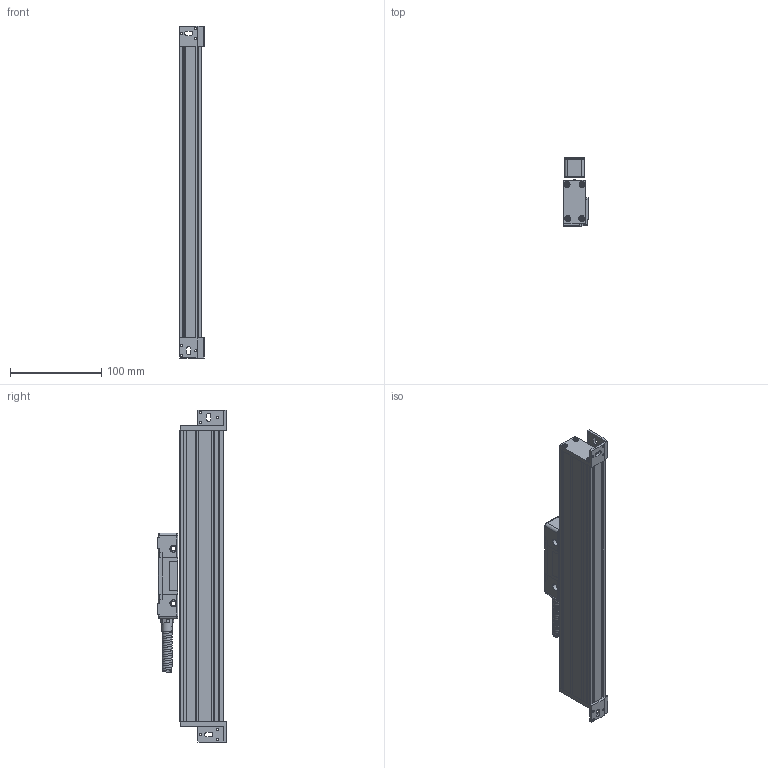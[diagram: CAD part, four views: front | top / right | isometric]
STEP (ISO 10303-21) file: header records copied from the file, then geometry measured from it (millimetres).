
FILE_DESCRIPTION (( 'STEP AP214' ), '1' );
FILE_NAME ('MLC310x0200.STEP', '2021-05-08T11:46:48', ( '' ), ( '' ), 'SwSTEP 2.0', 'SolidWorks 2014', '' );
FILE_SCHEMA (( 'AUTOMOTIVE_DESIGN' ));
Length unit declared in the file: millimetre
Products named in the file (1): MLC310x0200
Bounding box: 27 x 75.15 x 364 mm (x, y, z)
Surface area: 78366.3 mm2 (no closed solid volume)
Topology: 0 solids, 22 shells, 462 faces, 1697 edges, 1248 vertices
Faces by surface type: plane 181, cylinder 149, cone 83, bspline 39, torus 10
Entity records: 34132 total; most frequent: CARTESIAN_POINT 14790, DIRECTION 2894, ORIENTED_EDGE 2809, EDGE_CURVE 1689, VERTEX_POINT 1248, AXIS2_PLACEMENT_3D 1006, LINE 882, VECTOR 882
